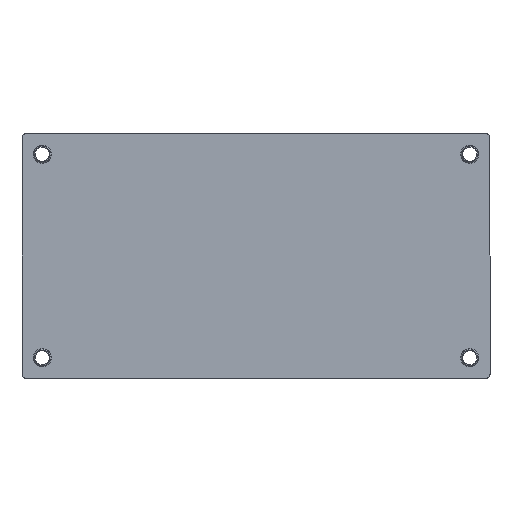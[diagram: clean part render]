
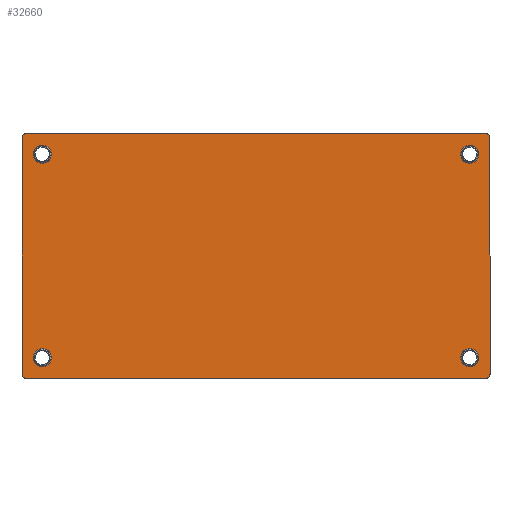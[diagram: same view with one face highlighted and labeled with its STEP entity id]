
A CAD part, front view. The second image highlights one B-rep face of the part: STEP entity #32660.
In plain terms, the highlighted planar face has unit normal (0, -1, 0).
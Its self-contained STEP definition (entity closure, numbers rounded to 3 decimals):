
#55 = EDGE_LOOP ( 'NONE', ( #17351, #12829 ) ) ;
#61 = FACE_BOUND ( 'NONE', #55, .T. ) ;
#155 = LINE ( 'NONE', #41108, #21935 ) ;
#189 = EDGE_CURVE ( 'NONE', #24552, #19324, #22999, .T. ) ;
#1016 = AXIS2_PLACEMENT_3D ( 'NONE', #26621, #27061, #43782 ) ;
#1231 = VERTEX_POINT ( 'NONE', #25733 ) ;
#1358 = ORIENTED_EDGE ( 'NONE', *, *, #11328, .F. ) ;
#1785 = DIRECTION ( 'NONE',  ( -1., 0., 0. ) ) ;
#2723 = EDGE_CURVE ( 'NONE', #8672, #17452, #31523, .T. ) ;
#2767 = CARTESIAN_POINT ( 'NONE',  ( 58.4, -1.7, 30.5 ) ) ;
#4383 = CIRCLE ( 'NONE', #35749, 2.25 ) ;
#4518 = VERTEX_POINT ( 'NONE', #16482 ) ;
#4524 = EDGE_CURVE ( 'NONE', #25830, #34892, #16037, .T. ) ;
#4634 = CIRCLE ( 'NONE', #14758, 2.25 ) ;
#4923 = DIRECTION ( 'NONE',  ( 0., -1., 0. ) ) ;
#5233 = DIRECTION ( 'NONE',  ( 0., -1., 0. ) ) ;
#5377 = CARTESIAN_POINT ( 'NONE',  ( 58.4, -1.7, -29.5 ) ) ;
#5464 = DIRECTION ( 'NONE',  ( -1., 0., 0. ) ) ;
#5620 = AXIS2_PLACEMENT_3D ( 'NONE', #9265, #39701, #26539 ) ;
#6077 = EDGE_CURVE ( 'NONE', #19324, #11641, #155, .T. ) ;
#6586 = CARTESIAN_POINT ( 'NONE',  ( -58.4, -1.7, -29.5 ) ) ;
#6658 = DIRECTION ( 'NONE',  ( 0., -1., 0. ) ) ;
#7103 = CARTESIAN_POINT ( 'NONE',  ( 51.1, -1.7, -25.4 ) ) ;
#7298 = DIRECTION ( 'NONE',  ( 1., 0., 0. ) ) ;
#8672 = VERTEX_POINT ( 'NONE', #16784 ) ;
#8718 = DIRECTION ( 'NONE',  ( 0., -1., 0. ) ) ;
#9265 = CARTESIAN_POINT ( 'NONE',  ( -57.4, -1.7, 29.5 ) ) ;
#9526 = DIRECTION ( 'NONE',  ( 0., 0., 1. ) ) ;
#10031 = CARTESIAN_POINT ( 'NONE',  ( 53.35, -1.7, -25.4 ) ) ;
#10323 = LINE ( 'NONE', #34293, #34251 ) ;
#10436 = EDGE_CURVE ( 'NONE', #13010, #12538, #10323, .T. ) ;
#10958 = AXIS2_PLACEMENT_3D ( 'NONE', #22285, #5233, #5464 ) ;
#11328 = EDGE_CURVE ( 'NONE', #4518, #28550, #43548, .T. ) ;
#11641 = VERTEX_POINT ( 'NONE', #33513 ) ;
#12097 = CARTESIAN_POINT ( 'NONE',  ( -53.35, -1.7, -25.4 ) ) ;
#12223 = AXIS2_PLACEMENT_3D ( 'NONE', #18825, #8718, #1785 ) ;
#12538 = VERTEX_POINT ( 'NONE', #18091 ) ;
#12829 = ORIENTED_EDGE ( 'NONE', *, *, #43812, .F. ) ;
#13010 = VERTEX_POINT ( 'NONE', #41509 ) ;
#13177 = EDGE_CURVE ( 'NONE', #34892, #13010, #27214, .T. ) ;
#13628 = EDGE_CURVE ( 'NONE', #1231, #27310, #4383, .T. ) ;
#13715 = FACE_BOUND ( 'NONE', #17240, .T. ) ;
#13880 = EDGE_CURVE ( 'NONE', #17236, #35975, #35774, .T. ) ;
#14105 = DIRECTION ( 'NONE',  ( 0., -1., 0. ) ) ;
#14228 = EDGE_LOOP ( 'NONE', ( #25272, #25358, #17065, #42753, #27101, #30804, #37152, #42156 ) ) ;
#14256 = CARTESIAN_POINT ( 'NONE',  ( -51.1, -1.7, -25.4 ) ) ;
#14318 = DIRECTION ( 'NONE',  ( 0., -1., 0. ) ) ;
#14758 = AXIS2_PLACEMENT_3D ( 'NONE', #34929, #14105, #20847 ) ;
#14781 = AXIS2_PLACEMENT_3D ( 'NONE', #28036, #18172, #30934 ) ;
#16037 = LINE ( 'NONE', #26366, #17018 ) ;
#16063 = VERTEX_POINT ( 'NONE', #22175 ) ;
#16386 = ORIENTED_EDGE ( 'NONE', *, *, #39938, .F. ) ;
#16396 = DIRECTION ( 'NONE',  ( 0., -1., 0. ) ) ;
#16440 = EDGE_CURVE ( 'NONE', #28550, #4518, #21677, .T. ) ;
#16482 = CARTESIAN_POINT ( 'NONE',  ( -55.6, -1.7, -25.4 ) ) ;
#16649 = FACE_BOUND ( 'NONE', #20336, .T. ) ;
#16784 = CARTESIAN_POINT ( 'NONE',  ( -55.6, -1.7, 25.4 ) ) ;
#17018 = VECTOR ( 'NONE', #9526, 1000. ) ;
#17065 = ORIENTED_EDGE ( 'NONE', *, *, #10436, .T. ) ;
#17236 = VERTEX_POINT ( 'NONE', #29511 ) ;
#17240 = EDGE_LOOP ( 'NONE', ( #16386, #26387 ) ) ;
#17351 = ORIENTED_EDGE ( 'NONE', *, *, #13880, .F. ) ;
#17452 = VERTEX_POINT ( 'NONE', #19335 ) ;
#17721 = AXIS2_PLACEMENT_3D ( 'NONE', #20032, #20243, #39710 ) ;
#18091 = CARTESIAN_POINT ( 'NONE',  ( -57.4, -1.7, 30.5 ) ) ;
#18159 = DIRECTION ( 'NONE',  ( -1., 0., 0. ) ) ;
#18172 = DIRECTION ( 'NONE',  ( 0., -1., 0. ) ) ;
#18295 = EDGE_CURVE ( 'NONE', #11641, #25830, #35578, .T. ) ;
#18825 = CARTESIAN_POINT ( 'NONE',  ( -53.35, -1.7, 25.4 ) ) ;
#19051 = ORIENTED_EDGE ( 'NONE', *, *, #13628, .F. ) ;
#19324 = VERTEX_POINT ( 'NONE', #26819 ) ;
#19335 = CARTESIAN_POINT ( 'NONE',  ( -51.1, -1.7, 25.4 ) ) ;
#19573 = FACE_BOUND ( 'NONE', #39796, .T. ) ;
#19983 = CARTESIAN_POINT ( 'NONE',  ( 53.35, -1.7, 25.4 ) ) ;
#20032 = CARTESIAN_POINT ( 'NONE',  ( 57.4, -1.7, -29.5 ) ) ;
#20243 = DIRECTION ( 'NONE',  ( 0., -1., 0. ) ) ;
#20336 = EDGE_LOOP ( 'NONE', ( #19051, #34292 ) ) ;
#20356 = CIRCLE ( 'NONE', #1016, 2.25 ) ;
#20529 = CIRCLE ( 'NONE', #14781, 2.25 ) ;
#20536 = EDGE_CURVE ( 'NONE', #12538, #16063, #24960, .T. ) ;
#20847 = DIRECTION ( 'NONE',  ( -1., 0., 0. ) ) ;
#21677 = CIRCLE ( 'NONE', #10958, 2.25 ) ;
#21935 = VECTOR ( 'NONE', #7298, 1000. ) ;
#22162 = LINE ( 'NONE', #35793, #42667 ) ;
#22175 = CARTESIAN_POINT ( 'NONE',  ( -58.4, -1.7, 29.5 ) ) ;
#22285 = CARTESIAN_POINT ( 'NONE',  ( -53.35, -1.7, -25.4 ) ) ;
#22489 = DIRECTION ( 'NONE',  ( 0., -1., 0. ) ) ;
#22999 = CIRCLE ( 'NONE', #35112, 1. ) ;
#24552 = VERTEX_POINT ( 'NONE', #6586 ) ;
#24634 = DIRECTION ( 'NONE',  ( -1., 0., 0. ) ) ;
#24960 = CIRCLE ( 'NONE', #5620, 1. ) ;
#25272 = ORIENTED_EDGE ( 'NONE', *, *, #4524, .T. ) ;
#25358 = ORIENTED_EDGE ( 'NONE', *, *, #13177, .T. ) ;
#25733 = CARTESIAN_POINT ( 'NONE',  ( 55.6, -1.7, 25.4 ) ) ;
#25830 = VERTEX_POINT ( 'NONE', #5377 ) ;
#25874 = DIRECTION ( 'NONE',  ( -1., 0., 0. ) ) ;
#26366 = CARTESIAN_POINT ( 'NONE',  ( 58.4, -1.7, -30.5 ) ) ;
#26387 = ORIENTED_EDGE ( 'NONE', *, *, #2723, .F. ) ;
#26539 = DIRECTION ( 'NONE',  ( -1., 0., 0. ) ) ;
#26621 = CARTESIAN_POINT ( 'NONE',  ( 53.35, -1.7, -25.4 ) ) ;
#26819 = CARTESIAN_POINT ( 'NONE',  ( -57.4, -1.7, -30.5 ) ) ;
#27061 = DIRECTION ( 'NONE',  ( 0., -1., 0. ) ) ;
#27101 = ORIENTED_EDGE ( 'NONE', *, *, #27461, .T. ) ;
#27214 = CIRCLE ( 'NONE', #32907, 1. ) ;
#27310 = VERTEX_POINT ( 'NONE', #30043 ) ;
#27390 = FACE_OUTER_BOUND ( 'NONE', #14228, .T. ) ;
#27461 = EDGE_CURVE ( 'NONE', #16063, #24552, #22162, .T. ) ;
#27498 = DIRECTION ( 'NONE',  ( -1., 0., 0. ) ) ;
#28036 = CARTESIAN_POINT ( 'NONE',  ( -53.35, -1.7, 25.4 ) ) ;
#28550 = VERTEX_POINT ( 'NONE', #14256 ) ;
#29511 = CARTESIAN_POINT ( 'NONE',  ( 55.6, -1.7, -25.4 ) ) ;
#30043 = CARTESIAN_POINT ( 'NONE',  ( 51.1, -1.7, 25.4 ) ) ;
#30705 = AXIS2_PLACEMENT_3D ( 'NONE', #12097, #4923, #18159 ) ;
#30804 = ORIENTED_EDGE ( 'NONE', *, *, #189, .T. ) ;
#30934 = DIRECTION ( 'NONE',  ( -1., 0., 0. ) ) ;
#31523 = CIRCLE ( 'NONE', #12223, 2.25 ) ;
#32660 = ADVANCED_FACE ( 'NONE', ( #61, #19573, #16649, #13715, #27390 ), #33445, .T. ) ;
#32907 = AXIS2_PLACEMENT_3D ( 'NONE', #39716, #22489, #25874 ) ;
#33288 = CARTESIAN_POINT ( 'NONE',  ( 58.4, -1.7, 29.5 ) ) ;
#33445 = PLANE ( 'NONE',  #34014 ) ;
#33513 = CARTESIAN_POINT ( 'NONE',  ( 57.4, -1.7, -30.5 ) ) ;
#33625 = DIRECTION ( 'NONE',  ( -1., 0., 0. ) ) ;
#34014 = AXIS2_PLACEMENT_3D ( 'NONE', #2767, #43698, #43914 ) ;
#34251 = VECTOR ( 'NONE', #38729, 1000. ) ;
#34292 = ORIENTED_EDGE ( 'NONE', *, *, #37141, .F. ) ;
#34293 = CARTESIAN_POINT ( 'NONE',  ( 58.4, -1.7, 30.5 ) ) ;
#34892 = VERTEX_POINT ( 'NONE', #33288 ) ;
#34929 = CARTESIAN_POINT ( 'NONE',  ( 53.35, -1.7, 25.4 ) ) ;
#35112 = AXIS2_PLACEMENT_3D ( 'NONE', #41600, #14318, #24634 ) ;
#35578 = CIRCLE ( 'NONE', #17721, 1. ) ;
#35727 = ORIENTED_EDGE ( 'NONE', *, *, #16440, .F. ) ;
#35749 = AXIS2_PLACEMENT_3D ( 'NONE', #19983, #16396, #33625 ) ;
#35774 = CIRCLE ( 'NONE', #43619, 2.25 ) ;
#35793 = CARTESIAN_POINT ( 'NONE',  ( -58.4, -1.7, -30.5 ) ) ;
#35975 = VERTEX_POINT ( 'NONE', #7103 ) ;
#36236 = DIRECTION ( 'NONE',  ( 0., 0., -1. ) ) ;
#37141 = EDGE_CURVE ( 'NONE', #27310, #1231, #4634, .T. ) ;
#37152 = ORIENTED_EDGE ( 'NONE', *, *, #6077, .T. ) ;
#38729 = DIRECTION ( 'NONE',  ( -1., 0., 0. ) ) ;
#39701 = DIRECTION ( 'NONE',  ( 0., -1., 0. ) ) ;
#39710 = DIRECTION ( 'NONE',  ( -1., 0., 0. ) ) ;
#39716 = CARTESIAN_POINT ( 'NONE',  ( 57.4, -1.7, 29.5 ) ) ;
#39796 = EDGE_LOOP ( 'NONE', ( #35727, #1358 ) ) ;
#39938 = EDGE_CURVE ( 'NONE', #17452, #8672, #20529, .T. ) ;
#41108 = CARTESIAN_POINT ( 'NONE',  ( 58.4, -1.7, -30.5 ) ) ;
#41509 = CARTESIAN_POINT ( 'NONE',  ( 57.4, -1.7, 30.5 ) ) ;
#41600 = CARTESIAN_POINT ( 'NONE',  ( -57.4, -1.7, -29.5 ) ) ;
#42156 = ORIENTED_EDGE ( 'NONE', *, *, #18295, .T. ) ;
#42667 = VECTOR ( 'NONE', #36236, 1000. ) ;
#42753 = ORIENTED_EDGE ( 'NONE', *, *, #20536, .T. ) ;
#43548 = CIRCLE ( 'NONE', #30705, 2.25 ) ;
#43619 = AXIS2_PLACEMENT_3D ( 'NONE', #10031, #6658, #27498 ) ;
#43698 = DIRECTION ( 'NONE',  ( 0., -1., 0. ) ) ;
#43782 = DIRECTION ( 'NONE',  ( -1., 0., 0. ) ) ;
#43812 = EDGE_CURVE ( 'NONE', #35975, #17236, #20356, .T. ) ;
#43914 = DIRECTION ( 'NONE',  ( -1., 0., 0. ) ) ;
